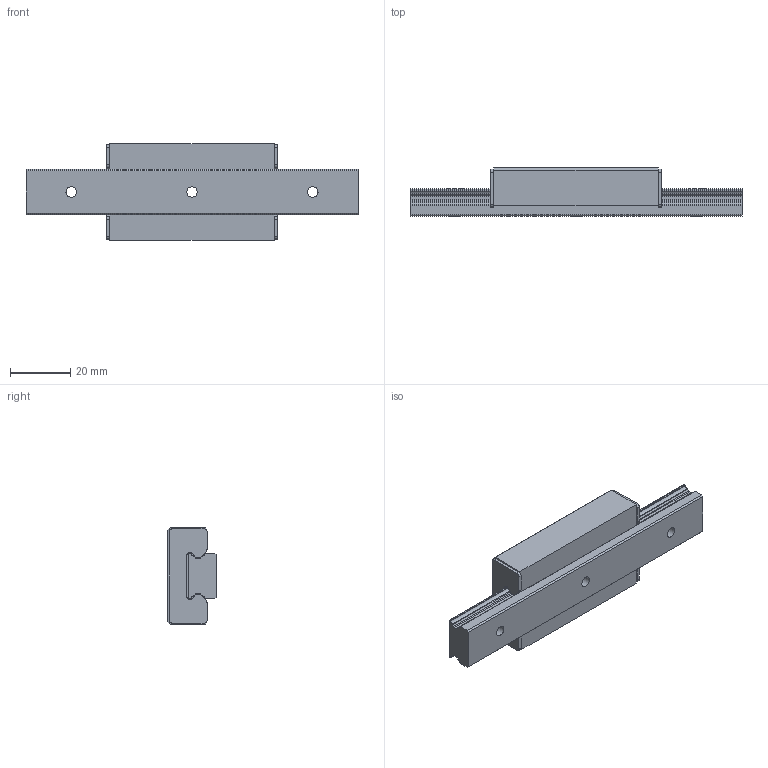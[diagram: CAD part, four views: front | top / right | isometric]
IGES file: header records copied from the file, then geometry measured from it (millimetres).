
Start section: Data from Parasolid IGES Translator 26.0.171, Copyright(c) 2006 Siemens PLM Software. All Rights Reserved.
Global section: file name: EPF15M34-110LM_G15_0_26-75_1.igs; native system: By Siemens PLM Incorporated; preprocessor: XPlus GENERIC/IGES 26.0.171; author: Noname; organization: Noname; date: 20240521.041318; units: millimetre
Bounding box: 110 x 16 x 32 mm (x, y, z)
Surface area: 12840.6 mm2 (no closed solid volume)
Topology: 0 solids, 0 shells, 158 faces, 900 edges, 885 vertices
Faces by surface type: revolution 87, extrusion 71
